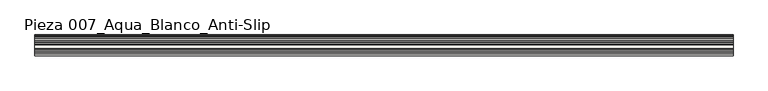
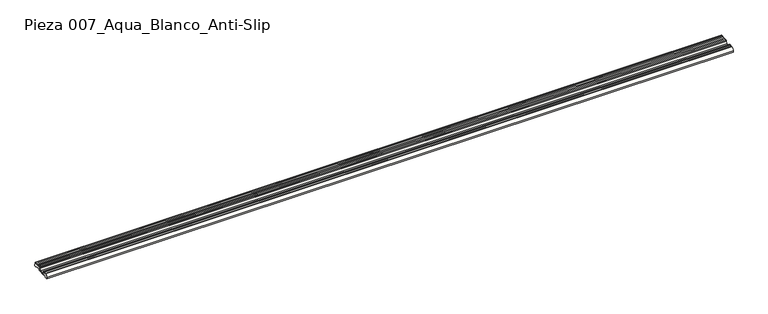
"""IFC4 building model written with IfcOpenShell, lengths in millimetres: slab geometry, ROSA GRES_007 : Pieza 007_Aqua_Blanco_Anti-Slip."""

from ifc_helpers import new_model, si_unit, point, frame, frame_2d, origin, place, context, project, spatial, polyline, circle_curve, trimmed, segment, composite_curve, outline, extrude, source, transform, mapped, element, save


def pieza_007_aqua_blanco_anti_slip_1a35a05d(model_context):
    return source(origin(), model_context, "Body", "SweptSolid", [
        extrude(outline(composite_curve([segment(polyline([(14.3742659, 174.3159971), (0.6896004, 173.202129), (-0.0710994, 182.547869)]), True, "CONTINUOUS"), segment(trimmed(circle_curve(frame_2d((15.1536138, 183.7870899)), 15.2750633), [point((-0.0710994, 182.547869))], [point((12.7748841, 198.875801))], False, "CARTESIAN"), True, "CONTINUOUS"), segment(polyline([(12.7748841, 198.875801), (16.9364731, 199.1796191)]), True, "CONTINUOUS"), segment(trimmed(circle_curve(frame_2d((20.3008643, 202.7650351)), 4.9167404), [point((16.9364731, 199.1796191))], [point((24.7247274, 200.6193952))], True, "CARTESIAN"), True, "CONTINUOUS"), segment(trimmed(circle_curve(frame_2d((27.3971937, 201.142641)), 2.7232081), [point((24.7247274, 200.6193952))], [point((29.9345538, 200.1538709))], True, "CARTESIAN"), True, "CONTINUOUS"), segment(polyline([(29.9345538, 200.1538709), (33.8762309, 200.4746837), (37.1820416, 176.172444)]), True, "CONTINUOUS"), segment(trimmed(circle_curve(frame_2d((25.9545763, 173.0767428)), 11.6464304), [point((37.1820416, 176.172444))], [point((14.3742659, 174.3159971))], True, "CARTESIAN"), True, "CONTINUOUS")], self_intersect=False)), frame((0.0, 0.0, 0.0), z_axis=(1.0, 0.0, 0.0), x_axis=(0.0, 1.0, 0.0)), (0.0, 0.0, 1.0), 3987.1379887),
        extrude(outline(composite_curve([segment(polyline([(71.8498608, 178.9942432), (37.1820416, 176.172444), (33.8762309, 200.4746837)]), True, "CONTINUOUS"), segment(trimmed(circle_curve(frame_2d((106.9597263, 233.2212806)), 80.084561), [point((33.8762309, 200.4746837))], [point((40.9402045, 187.8896178))], True, "CARTESIAN"), True, "CONTINUOUS"), segment(trimmed(circle_curve(frame_2d((43.5817022, 189.3117604)), 3.0), [point((40.9402045, 187.8896178))], [point((43.8250834, 186.3216491))], True, "CARTESIAN"), True, "CONTINUOUS"), segment(polyline([(43.8250834, 186.3216491), (61.867532, 187.7902205)]), True, "CONTINUOUS"), segment(trimmed(circle_curve(frame_2d((57.0579989, 199.0821231)), 12.2734948), [point((61.867532, 187.7902205))], [point((69.3023399, 198.236672))], True, "CARTESIAN"), True, "CONTINUOUS"), segment(polyline([(69.3023399, 198.236672), (69.6579726, 203.3871621), (73.3820924, 203.6902881)]), True, "CONTINUOUS"), segment(trimmed(circle_curve(frame_2d((76.8218788, 206.722806)), 4.5856619), [point((73.3820924, 203.6902881))], [point((81.0271834, 204.8942251))], True, "CARTESIAN"), True, "CONTINUOUS"), segment(trimmed(circle_curve(frame_2d((84.8780848, 207.3839748)), 4.5856619), [point((81.0271834, 204.8942251))], [point((89.0833894, 205.555394))], True, "CARTESIAN"), True, "CONTINUOUS"), segment(trimmed(circle_curve(frame_2d((92.9342908, 208.0451437)), 4.5856619), [point((89.0833894, 205.555394))], [point((97.1292049, 206.1928503))], True, "CARTESIAN"), True, "CONTINUOUS"), segment(trimmed(circle_curve(frame_2d((100.9933064, 209.1504161)), 4.8660534), [point((97.1292049, 206.1928503))], [point((105.2742048, 206.836894))], True, "CARTESIAN"), True, "CONTINUOUS"), segment(trimmed(circle_curve(frame_2d((109.1074243, 209.7932705)), 4.8408403), [point((105.2742048, 206.836894))], [point((113.0660814, 207.0070959))], True, "CARTESIAN"), True, "CONTINUOUS"), segment(polyline([(113.0660814, 207.0070959), (115.3491545, 207.1930072), (115.5338707, 204.9236084), (117.4809059, 205.0820876), (119.2900344, 182.8556525), (108.342302, 181.9645582)]), True, "CONTINUOUS"), segment(trimmed(circle_curve(frame_2d((91.1625174, 167.3774726)), 22.5372595), [point((108.342302, 181.9645582))], [point((71.8498608, 178.9942432))], True, "CARTESIAN"), True, "CONTINUOUS")], self_intersect=False)), frame((0.0, 0.0, 0.0), z_axis=(1.0, 0.0, 0.0), x_axis=(0.0, 1.0, 0.0)), (0.0, 0.0, 1.0), 3987.1379887),
    ])


if __name__ == "__main__":
    model = new_model("IFC4")
    model_context = context("Model", 3, world=origin())
    ifc_project = project(units=[si_unit("LENGTHUNIT", "METRE", prefix="MILLI")], contexts=[model_context])
    site = spatial("IfcSite", under=ifc_project)
    building = spatial("IfcBuilding", under=site)
    placement = place(None, origin())
    pieza_007_aqua_blanco_anti_slip_shape = pieza_007_aqua_blanco_anti_slip_1a35a05d(model_context)
    element("IfcSlab", 1, ObjectType="ROSA GRES_007 : Pieza 007_Aqua_Blanco_Anti-Slip", at=placement, inside=building, context=model_context, shape_type="MappedRepresentation", body=[
        mapped(pieza_007_aqua_blanco_anti_slip_shape, transform((0.0, 0.0, 0.0), x_axis=(1.0, 0.0, 0.0), y_axis=(0.0, 1.0, 0.0), z_axis=(0.0, 0.0, 1.0))),
    ])
    save(model, "model.ifc")
